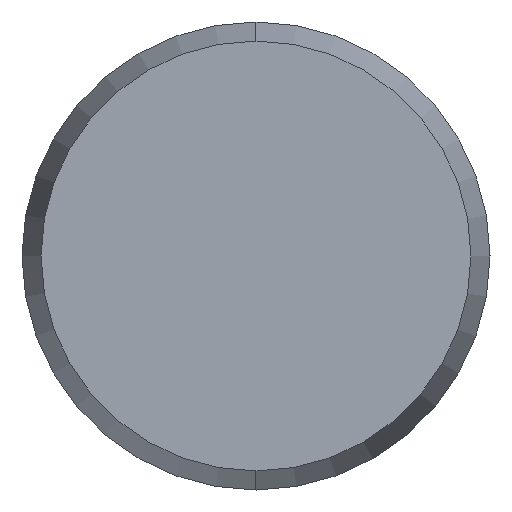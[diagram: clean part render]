
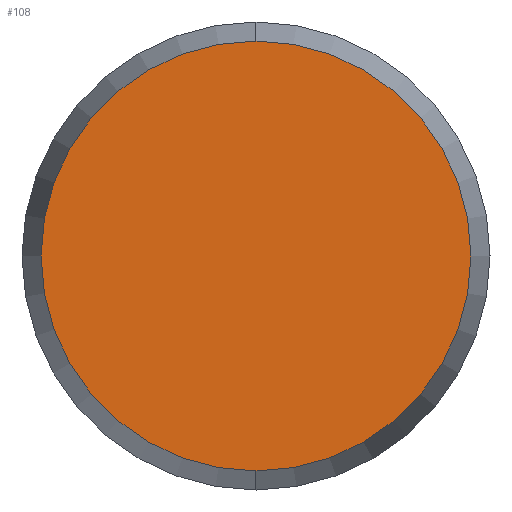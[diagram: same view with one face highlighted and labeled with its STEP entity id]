
A CAD part, left-side view. The second image highlights one B-rep face of the part: STEP entity #108.
In plain terms, the highlighted planar face has unit normal (-1, 0, 0).
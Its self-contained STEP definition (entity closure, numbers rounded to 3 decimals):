
#30 = ORIENTED_EDGE ( 'NONE', *, *, #426, .F. ) ;
#69 = CARTESIAN_POINT ( 'NONE',  ( -14.4, 0., 0. ) ) ;
#108 = ADVANCED_FACE ( 'NONE', ( #663 ), #939, .T. ) ;
#144 = CARTESIAN_POINT ( 'NONE',  ( -14.4, 0., 0. ) ) ;
#226 = DIRECTION ( 'NONE',  ( -1., 0., 0. ) ) ;
#283 = EDGE_LOOP ( 'NONE', ( #30, #503 ) ) ;
#348 = AXIS2_PLACEMENT_3D ( 'NONE', #802, #226, #808 ) ;
#406 = VERTEX_POINT ( 'NONE', #800 ) ;
#426 = EDGE_CURVE ( 'NONE', #406, #743, #554, .T. ) ;
#434 = DIRECTION ( 'NONE',  ( 1., 0., 0. ) ) ;
#447 = EDGE_CURVE ( 'NONE', #743, #406, #785, .T. ) ;
#495 = AXIS2_PLACEMENT_3D ( 'NONE', #69, #434, #730 ) ;
#503 = ORIENTED_EDGE ( 'NONE', *, *, #447, .F. ) ;
#509 = DIRECTION ( 'NONE',  ( 0., 0., -1. ) ) ;
#554 = CIRCLE ( 'NONE', #757, 4.5 ) ;
#663 = FACE_OUTER_BOUND ( 'NONE', #283, .T. ) ;
#720 = DIRECTION ( 'NONE',  ( 1., 0., 0. ) ) ;
#729 = CARTESIAN_POINT ( 'NONE',  ( -14.4, 0., 4.5 ) ) ;
#730 = DIRECTION ( 'NONE',  ( 0., 0., -1. ) ) ;
#743 = VERTEX_POINT ( 'NONE', #729 ) ;
#757 = AXIS2_PLACEMENT_3D ( 'NONE', #144, #720, #509 ) ;
#785 = CIRCLE ( 'NONE', #495, 4.5 ) ;
#800 = CARTESIAN_POINT ( 'NONE',  ( -14.4, 0., -4.5 ) ) ;
#802 = CARTESIAN_POINT ( 'NONE',  ( -14.4, 4.5, 0. ) ) ;
#808 = DIRECTION ( 'NONE',  ( 0., 0., 1. ) ) ;
#939 = PLANE ( 'NONE',  #348 ) ;
